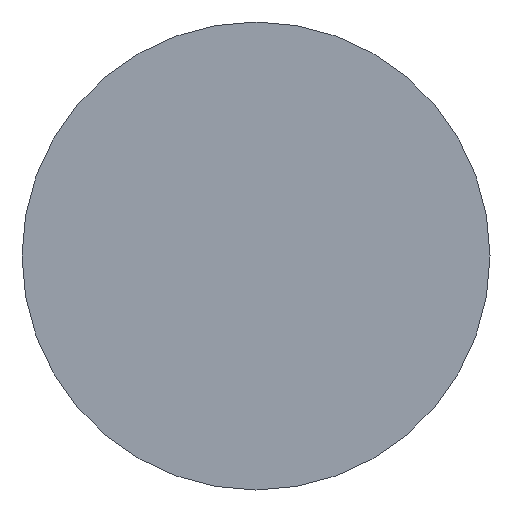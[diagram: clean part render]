
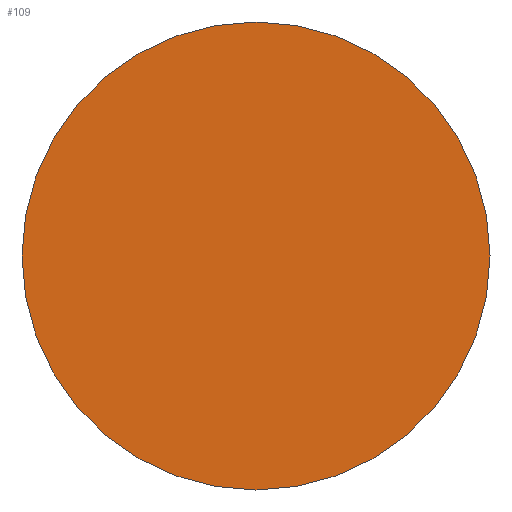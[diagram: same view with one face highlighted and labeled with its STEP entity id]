
A CAD part, left-side view. The second image highlights one B-rep face of the part: STEP entity #109.
In plain terms, the highlighted planar face has unit normal (-1, 0, 0).
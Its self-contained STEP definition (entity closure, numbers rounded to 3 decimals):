
#31 = CYLINDRICAL_SURFACE('',#32,2.5);
#32 = AXIS2_PLACEMENT_3D('',#33,#34,#35);
#33 = CARTESIAN_POINT('',(-40.8,-1.2,-23.));
#34 = DIRECTION('',(1.,0.,0.));
#35 = DIRECTION('',(0.,0.,-1.));
#56 = VERTEX_POINT('',#57);
#57 = CARTESIAN_POINT('',(-40.8,-1.2,-25.5));
#78 = EDGE_CURVE('',#56,#56,#79,.T.);
#79 = SURFACE_CURVE('',#80,(#85,#92),.PCURVE_S1.);
#80 = CIRCLE('',#81,2.5);
#81 = AXIS2_PLACEMENT_3D('',#82,#83,#84);
#82 = CARTESIAN_POINT('',(-40.8,-1.2,-23.));
#83 = DIRECTION('',(1.,-0.,0.));
#84 = DIRECTION('',(0.,0.,-1.));
#85 = PCURVE('',#31,#86);
#86 = DEFINITIONAL_REPRESENTATION('',(#87),#91);
#87 = LINE('',#88,#89);
#88 = CARTESIAN_POINT('',(0.,0.));
#89 = VECTOR('',#90,1.);
#90 = DIRECTION('',(1.,0.));
#91 = ( GEOMETRIC_REPRESENTATION_CONTEXT(2) 
PARAMETRIC_REPRESENTATION_CONTEXT() REPRESENTATION_CONTEXT('2D SPACE',''
  ) );
#92 = PCURVE('',#93,#98);
#93 = PLANE('',#94);
#94 = AXIS2_PLACEMENT_3D('',#95,#96,#97);
#95 = CARTESIAN_POINT('',(-40.8,-1.2,-23.));
#96 = DIRECTION('',(1.,0.,0.));
#97 = DIRECTION('',(0.,0.,-1.));
#98 = DEFINITIONAL_REPRESENTATION('',(#99),#103);
#99 = CIRCLE('',#100,2.5);
#100 = AXIS2_PLACEMENT_2D('',#101,#102);
#101 = CARTESIAN_POINT('',(0.,0.));
#102 = DIRECTION('',(1.,0.));
#103 = ( GEOMETRIC_REPRESENTATION_CONTEXT(2) 
PARAMETRIC_REPRESENTATION_CONTEXT() REPRESENTATION_CONTEXT('2D SPACE',''
  ) );
#109 = ADVANCED_FACE('',(#110),#93,.F.);
#110 = FACE_BOUND('',#111,.T.);
#111 = EDGE_LOOP('',(#112));
#112 = ORIENTED_EDGE('',*,*,#78,.F.);
